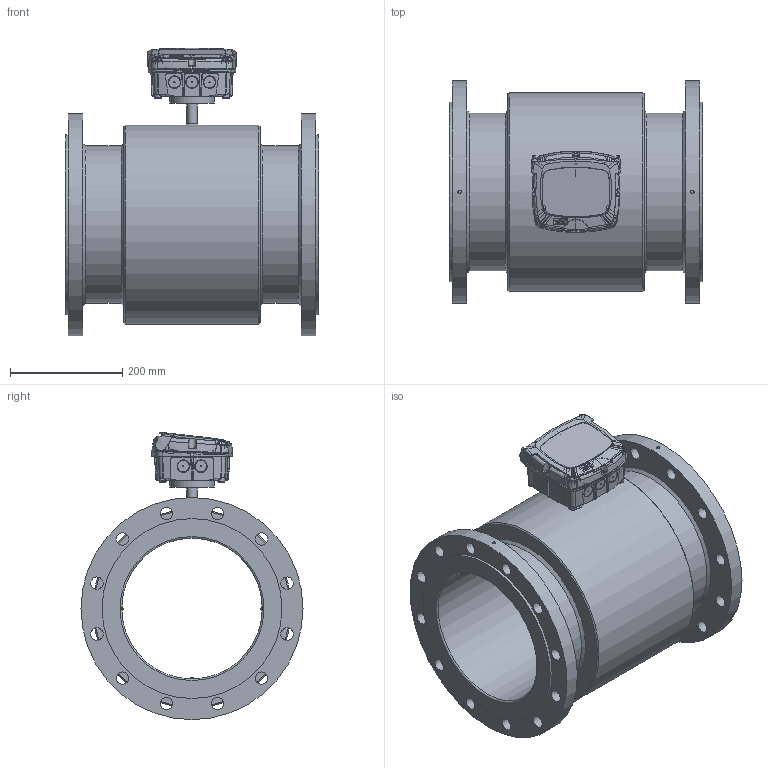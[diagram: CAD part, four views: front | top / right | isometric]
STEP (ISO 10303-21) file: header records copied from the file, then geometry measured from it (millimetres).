
FILE_DESCRIPTION((''),'2;1');
FILE_NAME('C:\Users\Claus\Dropbox\Projects 2011 - 2012\MJK Automation AS\DN 250 - ANSI B16,5.stp','2014-10-24T15:15:26',('Claus'),(''),'Autodesk Inventor 2013','Autodesk Inventor 2013','');
FILE_SCHEMA(('AUTOMOTIVE_DESIGN { 1 0 10303 214 1 1 1 1 }'));
Length unit declared in the file: millimetre
Products named in the file (7): DN 250 - ANSI B16,5; DN 250 - DIN EN-1095-1; FC_MagFlux_assembly_r1; CH Bund ml; FC Top rev 06.04; CH 03.02; Electrode group DN15 - DN32
Assembly tree (8 placements, depth 3):
  DN 250 - ANSI B16,5
    DN 250 - DIN EN-1095-1
    FC_MagFlux_assembly_r1
      CH Bund ml
      FC Top rev 06.04
      CH 03.02
    Electrode group DN15 - DN32  x3
Bounding box: 450 x 395 x 510.84 mm (x, y, z)
Volume: 18069793.2 mm3; surface area: 1431507.1 mm2
Topology: 10 solids, 10 shells, 2943 faces, 8018 edges, 5219 vertices
Faces by surface type: bspline 1752, plane 810, cylinder 218, cone 123, torus 25, revolution 9, sphere 6
Full cylindrical faces by diameter (mm): 2.5 x3, 3 x6, 4 x1, 6 x2, 6.5 x4, 7.042 x4, 8 x3, 8.048 x4, 12.072 x4, 15 x1, 18 x1, 18.108 x1, 22 x24, 64 x1, 250 x1, 280 x2, 320 x2, 354 x1, 395 x2
Entity records: 234332 total; most frequent: CARTESIAN_POINT 171604, ORIENTED_EDGE 15528, DIRECTION 7805, EDGE_CURVE 7764, VERTEX_POINT 5157, EDGE_LOOP 3305, VECTOR 3112, LINE 3112
